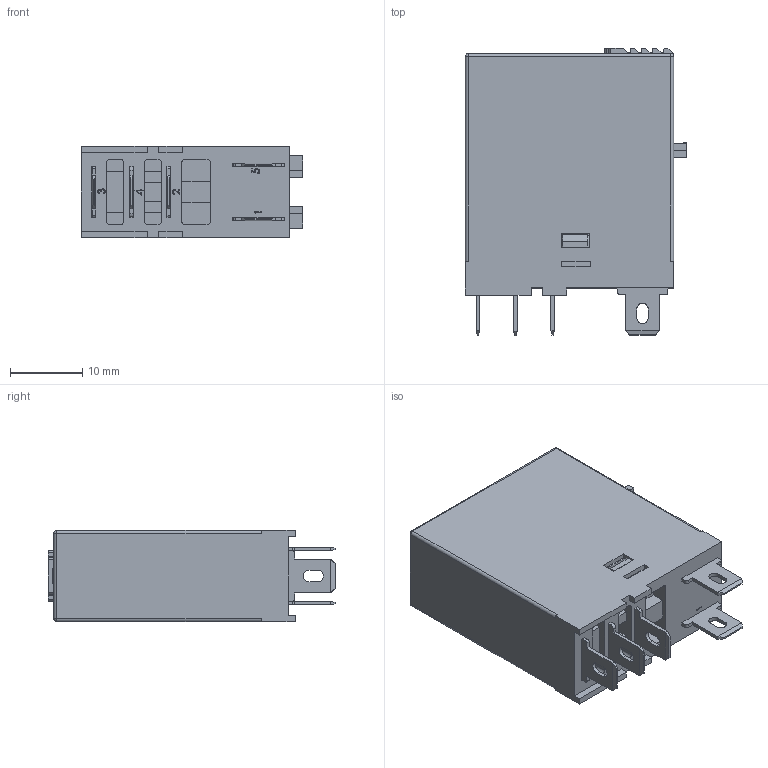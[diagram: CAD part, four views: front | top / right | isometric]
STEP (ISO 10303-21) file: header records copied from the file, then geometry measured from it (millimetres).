
FILE_DESCRIPTION (( 'STEP AP203' ), '1' );
FILE_NAME ('RFT-1C-LT 俋倛.STEP', '2022-12-28T07:11:26', ( '' ), ( '' ), 'SwSTEP 2.0', 'SolidWorks 2018', '' );
FILE_SCHEMA (( 'CONFIG_CONTROL_DESIGN' ));
Length unit declared in the file: millimetre
Products named in the file (1): RFT-1C-LT 俋倛
Bounding box: 30.6 x 39.75 x 12.6 mm (x, y, z)
Volume: 11652.2 mm3; surface area: 4297.3 mm2
Topology: 1 solids, 4 shells, 524 faces, 1396 edges, 890 vertices
Faces by surface type: plane 376, cylinder 104, bspline 28, sphere 10, cone 4, torus 2
Entity records: 17563 total; most frequent: CARTESIAN_POINT 4521, ORIENTED_EDGE 2772, DIRECTION 2532, EDGE_CURVE 1386, LINE 1114, VECTOR 1114, VERTEX_POINT 890, AXIS2_PLACEMENT_3D 709
